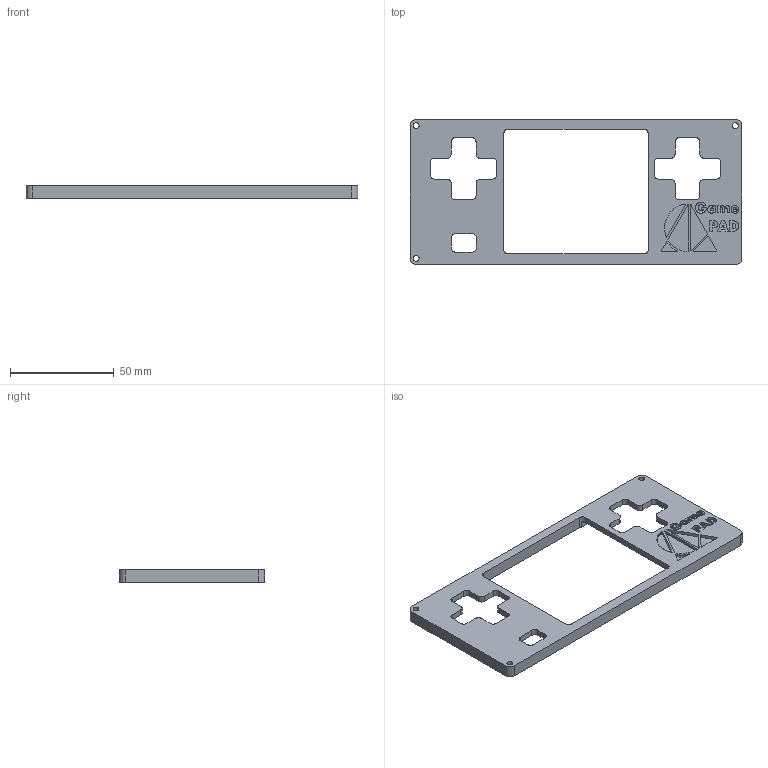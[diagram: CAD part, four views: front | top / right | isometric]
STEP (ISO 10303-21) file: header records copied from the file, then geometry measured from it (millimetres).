
FILE_DESCRIPTION(('HOOPS Exchange Step'),'2;1');
FILE_NAME('/private/var/mobile/Containers/Data/Application/266DDE31-0F5F-4924-9379-E846860AAEC6/tmp/export/temp_export','2025-06-30T23:40:38+20:00',('mobile'),('Shapr3D Limited'),'HOOPS Exchange 2024.8','Shapr3D','Authorized');
FILE_SCHEMA( ('AP242_MANAGED_MODEL_BASED_3D_ENGINEERING_MIM_LF {1 0 10303 442 1 1 4}') );
Length unit declared in the file: millimetre
Products named in the file (1): top part
Bounding box: 160 x 70 x 6 mm (x, y, z)
Volume: 23171.5 mm3; surface area: 17809.1 mm2
Topology: 1 solids, 1 shells, 289 faces, 813 edges, 543 vertices
Faces by surface type: plane 231, cylinder 39, bspline 19
Full cylindrical faces by diameter (mm): 2.8 x3
Entity records: 10108 total; most frequent: CARTESIAN_POINT 2602, ORIENTED_EDGE 1626, DIRECTION 1402, EDGE_CURVE 813, VECTOR 692, LINE 692, VERTEX_POINT 543, AXIS2_PLACEMENT_3D 355
